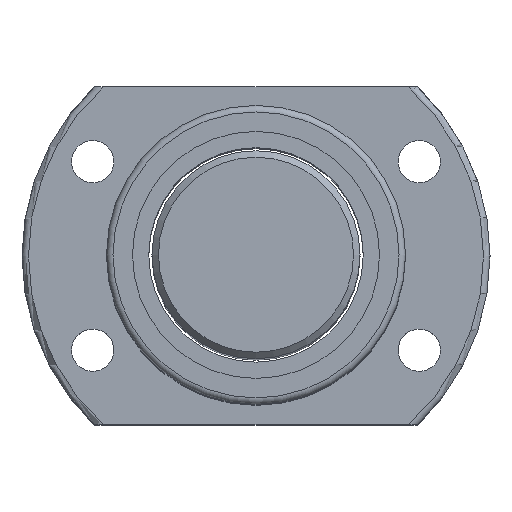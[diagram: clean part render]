
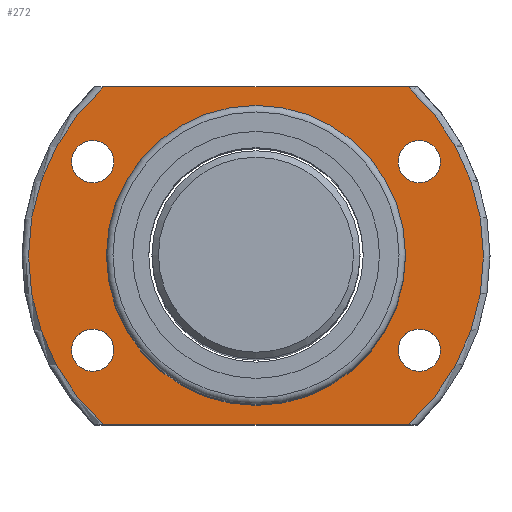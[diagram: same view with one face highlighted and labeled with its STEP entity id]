
A CAD part, top view. The second image highlights one B-rep face of the part: STEP entity #272.
In plain terms, the highlighted planar face has unit normal (0, 0, 1) as drawn and (-1, 0, 0) by its records, which use the part's own axes.
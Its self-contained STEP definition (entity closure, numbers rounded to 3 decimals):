
#97=LINE('',#1278,#105);
#98=LINE('',#1282,#106);
#105=VECTOR('',#968,1.);
#106=VECTOR('',#971,1.);
#173=FACE_BOUND('',#362,.T.);
#174=FACE_BOUND('',#363,.T.);
#175=FACE_BOUND('',#364,.T.);
#176=FACE_BOUND('',#365,.T.);
#177=FACE_BOUND('',#366,.T.);
#178=FACE_BOUND('',#367,.T.);
#272=ADVANCED_FACE('',(#173,#174,#175,#176,#177,#178),#320,.F.);
#320=PLANE('',#826);
#362=EDGE_LOOP('',(#479));
#363=EDGE_LOOP('',(#480));
#364=EDGE_LOOP('',(#481));
#365=EDGE_LOOP('',(#482));
#366=EDGE_LOOP('',(#483,#484,#485,#486));
#367=EDGE_LOOP('',(#487));
#479=ORIENTED_EDGE('',*,*,#686,.T.);
#480=ORIENTED_EDGE('',*,*,#687,.T.);
#481=ORIENTED_EDGE('',*,*,#688,.T.);
#482=ORIENTED_EDGE('',*,*,#689,.T.);
#483=ORIENTED_EDGE('',*,*,#673,.F.);
#484=ORIENTED_EDGE('',*,*,#690,.T.);
#485=ORIENTED_EDGE('',*,*,#691,.F.);
#486=ORIENTED_EDGE('',*,*,#692,.T.);
#487=ORIENTED_EDGE('',*,*,#684,.T.);
#607=VERTEX_POINT('',#1182);
#609=VERTEX_POINT('',#1185);
#619=VERTEX_POINT('',#1266);
#621=VERTEX_POINT('',#1271);
#622=VERTEX_POINT('',#1273);
#623=VERTEX_POINT('',#1275);
#624=VERTEX_POINT('',#1277);
#625=VERTEX_POINT('',#1279);
#626=VERTEX_POINT('',#1281);
#673=EDGE_CURVE('',#607,#609,#745,.T.);
#684=EDGE_CURVE('',#619,#619,#751,.T.);
#686=EDGE_CURVE('',#621,#621,#753,.T.);
#687=EDGE_CURVE('',#622,#622,#754,.T.);
#688=EDGE_CURVE('',#623,#623,#755,.T.);
#689=EDGE_CURVE('',#624,#624,#756,.T.);
#690=EDGE_CURVE('',#607,#625,#97,.T.);
#691=EDGE_CURVE('',#626,#625,#757,.T.);
#692=EDGE_CURVE('',#626,#609,#98,.T.);
#745=CIRCLE('',#809,35.);
#751=CIRCLE('',#818,23.);
#753=CIRCLE('',#821,3.25);
#754=CIRCLE('',#822,3.25);
#755=CIRCLE('',#823,3.25);
#756=CIRCLE('',#824,3.25);
#757=CIRCLE('',#825,35.);
#809=AXIS2_PLACEMENT_3D('',#1184,#934,#935);
#818=AXIS2_PLACEMENT_3D('',#1265,#954,#955);
#821=AXIS2_PLACEMENT_3D('',#1270,#960,#961);
#822=AXIS2_PLACEMENT_3D('',#1272,#962,#963);
#823=AXIS2_PLACEMENT_3D('',#1274,#964,#965);
#824=AXIS2_PLACEMENT_3D('',#1276,#966,#967);
#825=AXIS2_PLACEMENT_3D('',#1280,#969,#970);
#826=AXIS2_PLACEMENT_3D('',#1283,#972,#973);
#934=DIRECTION('',(1.,0.,0.));
#935=DIRECTION('',(0.,1.,0.));
#954=DIRECTION('',(1.,0.,0.));
#955=DIRECTION('',(0.,1.,0.));
#960=DIRECTION('',(1.,0.,0.));
#961=DIRECTION('',(0.,1.,0.));
#962=DIRECTION('',(1.,0.,0.));
#963=DIRECTION('',(0.,1.,0.));
#964=DIRECTION('',(1.,0.,0.));
#965=DIRECTION('',(0.,1.,0.));
#966=DIRECTION('',(1.,0.,0.));
#967=DIRECTION('',(0.,1.,0.));
#968=DIRECTION('',(0.,0.,1.));
#969=DIRECTION('',(1.,0.,0.));
#970=DIRECTION('',(0.,1.,0.));
#971=DIRECTION('',(0.,0.,-1.));
#972=DIRECTION('',(1.,0.,0.));
#973=DIRECTION('',(0.,-1.,0.));
#1182=CARTESIAN_POINT('',(-27.,-26.,-23.431));
#1184=CARTESIAN_POINT('',(-27.,0.,0.));
#1185=CARTESIAN_POINT('',(-27.,26.,-23.431));
#1265=CARTESIAN_POINT('',(-27.,0.,0.));
#1266=CARTESIAN_POINT('',(-27.,23.,0.));
#1270=CARTESIAN_POINT('',(-27.,14.5,-25.115));
#1271=CARTESIAN_POINT('',(-27.,17.75,-25.115));
#1272=CARTESIAN_POINT('',(-27.,-14.5,-25.115));
#1273=CARTESIAN_POINT('',(-27.,-11.25,-25.115));
#1274=CARTESIAN_POINT('',(-27.,-14.5,25.115));
#1275=CARTESIAN_POINT('',(-27.,-11.25,25.115));
#1276=CARTESIAN_POINT('',(-27.,14.5,25.115));
#1277=CARTESIAN_POINT('',(-27.,17.75,25.115));
#1278=CARTESIAN_POINT('',(-27.,-26.,0.));
#1279=CARTESIAN_POINT('',(-27.,-26.,23.431));
#1280=CARTESIAN_POINT('',(-27.,0.,0.));
#1281=CARTESIAN_POINT('',(-27.,26.,23.431));
#1282=CARTESIAN_POINT('',(-27.,26.,0.));
#1283=CARTESIAN_POINT('',(-27.,29.,0.));
